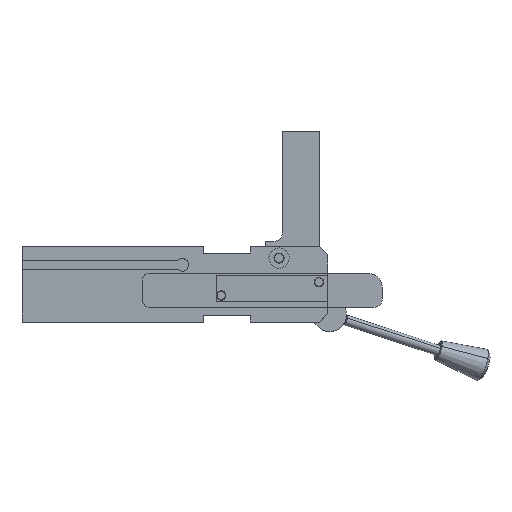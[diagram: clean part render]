
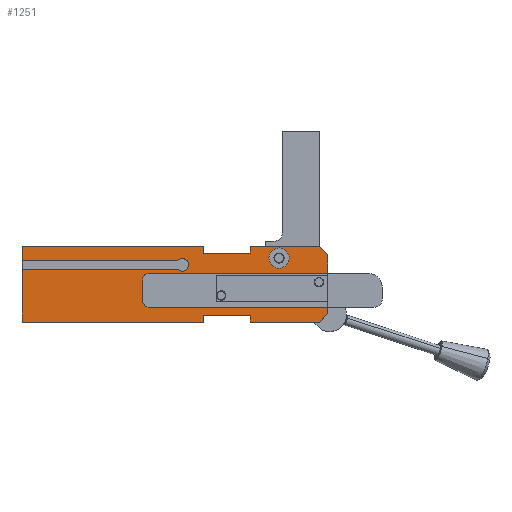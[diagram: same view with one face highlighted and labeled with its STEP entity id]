
A CAD part, top view. The second image highlights one B-rep face of the part: STEP entity #1251.
In plain terms, the highlighted planar face has unit normal (0, 0, 1).
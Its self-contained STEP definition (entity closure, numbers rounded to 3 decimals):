
#828=AXIS2_PLACEMENT_3D('Circle Axis2P3D',#826,#827,$) ;
#897=AXIS2_PLACEMENT_3D('Circle Axis2P3D',#895,#896,$) ;
#1080=AXIS2_PLACEMENT_3D('Plane Axis2P3D',#1077,#1078,#1079) ;
#1140=AXIS2_PLACEMENT_3D('Circle Axis2P3D',#1138,#1139,$) ;
#1147=AXIS2_PLACEMENT_3D('Circle Axis2P3D',#1145,#1146,$) ;
#1235=AXIS2_PLACEMENT_3D('Circle Axis2P3D',#1233,#1234,$) ;
#1244=AXIS2_PLACEMENT_3D('Circle Axis2P3D',#1242,#1243,$) ;
#823=CARTESIAN_POINT('Vertex',(-81.,-25.2,17.5)) ;
#826=CARTESIAN_POINT('Axis2P3D Location',(-77.,-25.2,17.5)) ;
#830=CARTESIAN_POINT('Vertex',(-77.,-29.2,17.5)) ;
#861=CARTESIAN_POINT('Vertex',(-81.,-13.,17.5)) ;
#864=CARTESIAN_POINT('Line Origine',(-81.,-19.1,17.5)) ;
#892=CARTESIAN_POINT('Vertex',(-77.,-9.,17.5)) ;
#895=CARTESIAN_POINT('Axis2P3D Location',(-77.,-13.,17.5)) ;
#923=CARTESIAN_POINT('Vertex',(29.,-9.,17.5)) ;
#926=CARTESIAN_POINT('Line Origine',(-24.,-9.,17.5)) ;
#950=CARTESIAN_POINT('Line Origine',(29.,-31.1,17.5)) ;
#954=CARTESIAN_POINT('Vertex',(29.,-33.,17.5)) ;
#956=CARTESIAN_POINT('Vertex',(29.,-29.2,17.5)) ;
#991=CARTESIAN_POINT('Vertex',(29.,2.,17.5)) ;
#994=CARTESIAN_POINT('Line Origine',(29.,-3.5,17.5)) ;
#1029=CARTESIAN_POINT('Line Origine',(-24.,-29.2,17.5)) ;
#1077=CARTESIAN_POINT('Axis2P3D Location',(0.,0.,17.5)) ;
#1082=CARTESIAN_POINT('Line Origine',(26.5,4.5,17.5)) ;
#1086=CARTESIAN_POINT('Vertex',(24.,7.,17.5)) ;
#1089=CARTESIAN_POINT('Line Origine',(3.5,7.,17.5)) ;
#1093=CARTESIAN_POINT('Vertex',(-17.,7.,17.5)) ;
#1096=CARTESIAN_POINT('Line Origine',(-17.,5.,17.5)) ;
#1100=CARTESIAN_POINT('Vertex',(-17.,3.,17.5)) ;
#1103=CARTESIAN_POINT('Line Origine',(-31.,3.,17.5)) ;
#1107=CARTESIAN_POINT('Vertex',(-45.,3.,17.5)) ;
#1110=CARTESIAN_POINT('Line Origine',(-45.,5.,17.5)) ;
#1114=CARTESIAN_POINT('Vertex',(-45.,7.,17.5)) ;
#1117=CARTESIAN_POINT('Line Origine',(-98.75,7.,17.5)) ;
#1121=CARTESIAN_POINT('Vertex',(-152.5,7.,17.5)) ;
#1124=CARTESIAN_POINT('Line Origine',(-152.5,2.8,17.5)) ;
#1128=CARTESIAN_POINT('Vertex',(-152.5,-1.4,17.5)) ;
#1131=CARTESIAN_POINT('Line Origine',(-106.351,-1.4,17.5)) ;
#1135=CARTESIAN_POINT('Vertex',(-60.202,-1.4,17.5)) ;
#1138=CARTESIAN_POINT('Axis2P3D Location',(-57.5,-4.,17.5)) ;
#1142=CARTESIAN_POINT('Vertex',(-53.75,-4.,17.5)) ;
#1145=CARTESIAN_POINT('Axis2P3D Location',(-57.5,-4.,17.5)) ;
#1149=CARTESIAN_POINT('Vertex',(-60.202,-6.6,17.5)) ;
#1152=CARTESIAN_POINT('Line Origine',(-106.351,-6.6,17.5)) ;
#1156=CARTESIAN_POINT('Vertex',(-152.5,-6.6,17.5)) ;
#1159=CARTESIAN_POINT('Line Origine',(-152.5,-22.3,17.5)) ;
#1163=CARTESIAN_POINT('Vertex',(-152.5,-38.,17.5)) ;
#1166=CARTESIAN_POINT('Line Origine',(-98.75,-38.,17.5)) ;
#1170=CARTESIAN_POINT('Vertex',(-45.,-38.,17.5)) ;
#1173=CARTESIAN_POINT('Line Origine',(-45.,-36.,17.5)) ;
#1177=CARTESIAN_POINT('Vertex',(-45.,-34.,17.5)) ;
#1180=CARTESIAN_POINT('Line Origine',(-31.,-34.,17.5)) ;
#1184=CARTESIAN_POINT('Vertex',(-17.,-34.,17.5)) ;
#1187=CARTESIAN_POINT('Line Origine',(-17.,-36.,17.5)) ;
#1191=CARTESIAN_POINT('Vertex',(-17.,-38.,17.5)) ;
#1194=CARTESIAN_POINT('Line Origine',(3.5,-38.,17.5)) ;
#1198=CARTESIAN_POINT('Vertex',(24.,-38.,17.5)) ;
#1201=CARTESIAN_POINT('Line Origine',(26.5,-35.5,17.5)) ;
#1233=CARTESIAN_POINT('Axis2P3D Location',(0.,0.,17.5)) ;
#1237=CARTESIAN_POINT('Vertex',(-5.265,-2.877,17.5)) ;
#1239=CARTESIAN_POINT('Vertex',(5.265,2.877,17.5)) ;
#1242=CARTESIAN_POINT('Axis2P3D Location',(0.,0.,17.5)) ;
#827=DIRECTION('Axis2P3D Direction',(0.,0.,-1.)) ;
#865=DIRECTION('Vector Direction',(0.,1.,0.)) ;
#896=DIRECTION('Axis2P3D Direction',(0.,0.,-1.)) ;
#927=DIRECTION('Vector Direction',(-1.,0.,0.)) ;
#951=DIRECTION('Vector Direction',(0.,1.,0.)) ;
#995=DIRECTION('Vector Direction',(0.,1.,0.)) ;
#1030=DIRECTION('Vector Direction',(1.,0.,0.)) ;
#1078=DIRECTION('Axis2P3D Direction',(0.,0.,1.)) ;
#1079=DIRECTION('Axis2P3D XDirection',(1.,0.,0.)) ;
#1083=DIRECTION('Vector Direction',(-0.707,0.707,0.)) ;
#1090=DIRECTION('Vector Direction',(-1.,0.,0.)) ;
#1097=DIRECTION('Vector Direction',(0.,-1.,0.)) ;
#1104=DIRECTION('Vector Direction',(-1.,0.,0.)) ;
#1111=DIRECTION('Vector Direction',(0.,1.,0.)) ;
#1118=DIRECTION('Vector Direction',(-1.,0.,0.)) ;
#1125=DIRECTION('Vector Direction',(0.,-1.,0.)) ;
#1132=DIRECTION('Vector Direction',(1.,0.,0.)) ;
#1139=DIRECTION('Axis2P3D Direction',(0.,0.,1.)) ;
#1146=DIRECTION('Axis2P3D Direction',(0.,0.,1.)) ;
#1153=DIRECTION('Vector Direction',(1.,0.,0.)) ;
#1160=DIRECTION('Vector Direction',(0.,-1.,0.)) ;
#1167=DIRECTION('Vector Direction',(1.,0.,0.)) ;
#1174=DIRECTION('Vector Direction',(0.,1.,0.)) ;
#1181=DIRECTION('Vector Direction',(1.,0.,0.)) ;
#1188=DIRECTION('Vector Direction',(0.,-1.,0.)) ;
#1195=DIRECTION('Vector Direction',(1.,0.,0.)) ;
#1202=DIRECTION('Vector Direction',(0.707,0.707,0.)) ;
#1234=DIRECTION('Axis2P3D Direction',(0.,0.,1.)) ;
#1243=DIRECTION('Axis2P3D Direction',(0.,0.,1.)) ;
#866=VECTOR('Line Direction',#865,1.) ;
#928=VECTOR('Line Direction',#927,1.) ;
#952=VECTOR('Line Direction',#951,1.) ;
#996=VECTOR('Line Direction',#995,1.) ;
#1031=VECTOR('Line Direction',#1030,1.) ;
#1084=VECTOR('Line Direction',#1083,1.) ;
#1091=VECTOR('Line Direction',#1090,1.) ;
#1098=VECTOR('Line Direction',#1097,1.) ;
#1105=VECTOR('Line Direction',#1104,1.) ;
#1112=VECTOR('Line Direction',#1111,1.) ;
#1119=VECTOR('Line Direction',#1118,1.) ;
#1126=VECTOR('Line Direction',#1125,1.) ;
#1133=VECTOR('Line Direction',#1132,1.) ;
#1154=VECTOR('Line Direction',#1153,1.) ;
#1161=VECTOR('Line Direction',#1160,1.) ;
#1168=VECTOR('Line Direction',#1167,1.) ;
#1175=VECTOR('Line Direction',#1174,1.) ;
#1182=VECTOR('Line Direction',#1181,1.) ;
#1189=VECTOR('Line Direction',#1188,1.) ;
#1196=VECTOR('Line Direction',#1195,1.) ;
#1203=VECTOR('Line Direction',#1202,1.) ;
#1207=ORIENTED_EDGE('',*,*,#998,.T.) ;
#1208=ORIENTED_EDGE('',*,*,#1088,.T.) ;
#1209=ORIENTED_EDGE('',*,*,#1095,.T.) ;
#1210=ORIENTED_EDGE('',*,*,#1102,.T.) ;
#1211=ORIENTED_EDGE('',*,*,#1109,.T.) ;
#1212=ORIENTED_EDGE('',*,*,#1116,.T.) ;
#1213=ORIENTED_EDGE('',*,*,#1123,.T.) ;
#1214=ORIENTED_EDGE('',*,*,#1130,.T.) ;
#1215=ORIENTED_EDGE('',*,*,#1137,.T.) ;
#1216=ORIENTED_EDGE('',*,*,#1144,.T.) ;
#1217=ORIENTED_EDGE('',*,*,#1151,.T.) ;
#1218=ORIENTED_EDGE('',*,*,#1158,.F.) ;
#1219=ORIENTED_EDGE('',*,*,#1165,.T.) ;
#1220=ORIENTED_EDGE('',*,*,#1172,.T.) ;
#1221=ORIENTED_EDGE('',*,*,#1179,.T.) ;
#1222=ORIENTED_EDGE('',*,*,#1186,.T.) ;
#1223=ORIENTED_EDGE('',*,*,#1193,.T.) ;
#1224=ORIENTED_EDGE('',*,*,#1200,.T.) ;
#1225=ORIENTED_EDGE('',*,*,#1205,.T.) ;
#1226=ORIENTED_EDGE('',*,*,#958,.T.) ;
#1227=ORIENTED_EDGE('',*,*,#1033,.T.) ;
#1228=ORIENTED_EDGE('',*,*,#832,.T.) ;
#1229=ORIENTED_EDGE('',*,*,#868,.T.) ;
#1230=ORIENTED_EDGE('',*,*,#899,.T.) ;
#1231=ORIENTED_EDGE('',*,*,#930,.T.) ;
#1248=ORIENTED_EDGE('',*,*,#1241,.F.) ;
#1249=ORIENTED_EDGE('',*,*,#1246,.F.) ;
#1250=FACE_BOUND('',#1247,.T.) ;
#1251=ADVANCED_FACE('PKS_25_1_ZR_A18_T03_TUENKERS',(#1232,#1250),#1081,.T.) ;
#829=CIRCLE('generated circle',#828,4.) ;
#898=CIRCLE('generated circle',#897,4.) ;
#1141=CIRCLE('generated circle',#1140,3.75) ;
#1148=CIRCLE('generated circle',#1147,3.75) ;
#1236=CIRCLE('generated circle',#1235,6.) ;
#1245=CIRCLE('generated circle',#1244,6.) ;
#832=EDGE_CURVE('',#831,#824,#829,.T.) ;
#868=EDGE_CURVE('',#824,#862,#867,.T.) ;
#899=EDGE_CURVE('',#862,#893,#898,.T.) ;
#930=EDGE_CURVE('',#893,#924,#929,.F.) ;
#958=EDGE_CURVE('',#955,#957,#953,.T.) ;
#998=EDGE_CURVE('',#924,#992,#997,.T.) ;
#1033=EDGE_CURVE('',#957,#831,#1032,.F.) ;
#1088=EDGE_CURVE('',#992,#1087,#1085,.T.) ;
#1095=EDGE_CURVE('',#1087,#1094,#1092,.T.) ;
#1102=EDGE_CURVE('',#1094,#1101,#1099,.T.) ;
#1109=EDGE_CURVE('',#1101,#1108,#1106,.T.) ;
#1116=EDGE_CURVE('',#1108,#1115,#1113,.T.) ;
#1123=EDGE_CURVE('',#1115,#1122,#1120,.T.) ;
#1130=EDGE_CURVE('',#1122,#1129,#1127,.T.) ;
#1137=EDGE_CURVE('',#1129,#1136,#1134,.T.) ;
#1144=EDGE_CURVE('',#1136,#1143,#1141,.F.) ;
#1151=EDGE_CURVE('',#1143,#1150,#1148,.F.) ;
#1158=EDGE_CURVE('',#1157,#1150,#1155,.T.) ;
#1165=EDGE_CURVE('',#1157,#1164,#1162,.T.) ;
#1172=EDGE_CURVE('',#1164,#1171,#1169,.T.) ;
#1179=EDGE_CURVE('',#1171,#1178,#1176,.T.) ;
#1186=EDGE_CURVE('',#1178,#1185,#1183,.T.) ;
#1193=EDGE_CURVE('',#1185,#1192,#1190,.T.) ;
#1200=EDGE_CURVE('',#1192,#1199,#1197,.T.) ;
#1205=EDGE_CURVE('',#1199,#955,#1204,.T.) ;
#1241=EDGE_CURVE('',#1238,#1240,#1236,.T.) ;
#1246=EDGE_CURVE('',#1240,#1238,#1245,.T.) ;
#1206=EDGE_LOOP('',(#1207,#1208,#1209,#1210,#1211,#1212,#1213,#1214,#1215,#1216,#1217,#1218,#1219,#1220,#1221,#1222,#1223,#1224,#1225,#1226,#1227,#1228,#1229,#1230,#1231)) ;
#1247=EDGE_LOOP('',(#1248,#1249)) ;
#1232=FACE_OUTER_BOUND('',#1206,.T.) ;
#867=LINE('Line',#864,#866) ;
#929=LINE('Line',#926,#928) ;
#953=LINE('Line',#950,#952) ;
#997=LINE('Line',#994,#996) ;
#1032=LINE('Line',#1029,#1031) ;
#1085=LINE('Line',#1082,#1084) ;
#1092=LINE('Line',#1089,#1091) ;
#1099=LINE('Line',#1096,#1098) ;
#1106=LINE('Line',#1103,#1105) ;
#1113=LINE('Line',#1110,#1112) ;
#1120=LINE('Line',#1117,#1119) ;
#1127=LINE('Line',#1124,#1126) ;
#1134=LINE('Line',#1131,#1133) ;
#1155=LINE('Line',#1152,#1154) ;
#1162=LINE('Line',#1159,#1161) ;
#1169=LINE('Line',#1166,#1168) ;
#1176=LINE('Line',#1173,#1175) ;
#1183=LINE('Line',#1180,#1182) ;
#1190=LINE('Line',#1187,#1189) ;
#1197=LINE('Line',#1194,#1196) ;
#1204=LINE('Line',#1201,#1203) ;
#1081=PLANE('Plane',#1080) ;
#824=VERTEX_POINT('',#823) ;
#831=VERTEX_POINT('',#830) ;
#862=VERTEX_POINT('',#861) ;
#893=VERTEX_POINT('',#892) ;
#924=VERTEX_POINT('',#923) ;
#955=VERTEX_POINT('',#954) ;
#957=VERTEX_POINT('',#956) ;
#992=VERTEX_POINT('',#991) ;
#1087=VERTEX_POINT('',#1086) ;
#1094=VERTEX_POINT('',#1093) ;
#1101=VERTEX_POINT('',#1100) ;
#1108=VERTEX_POINT('',#1107) ;
#1115=VERTEX_POINT('',#1114) ;
#1122=VERTEX_POINT('',#1121) ;
#1129=VERTEX_POINT('',#1128) ;
#1136=VERTEX_POINT('',#1135) ;
#1143=VERTEX_POINT('',#1142) ;
#1150=VERTEX_POINT('',#1149) ;
#1157=VERTEX_POINT('',#1156) ;
#1164=VERTEX_POINT('',#1163) ;
#1171=VERTEX_POINT('',#1170) ;
#1178=VERTEX_POINT('',#1177) ;
#1185=VERTEX_POINT('',#1184) ;
#1192=VERTEX_POINT('',#1191) ;
#1199=VERTEX_POINT('',#1198) ;
#1238=VERTEX_POINT('',#1237) ;
#1240=VERTEX_POINT('',#1239) ;
